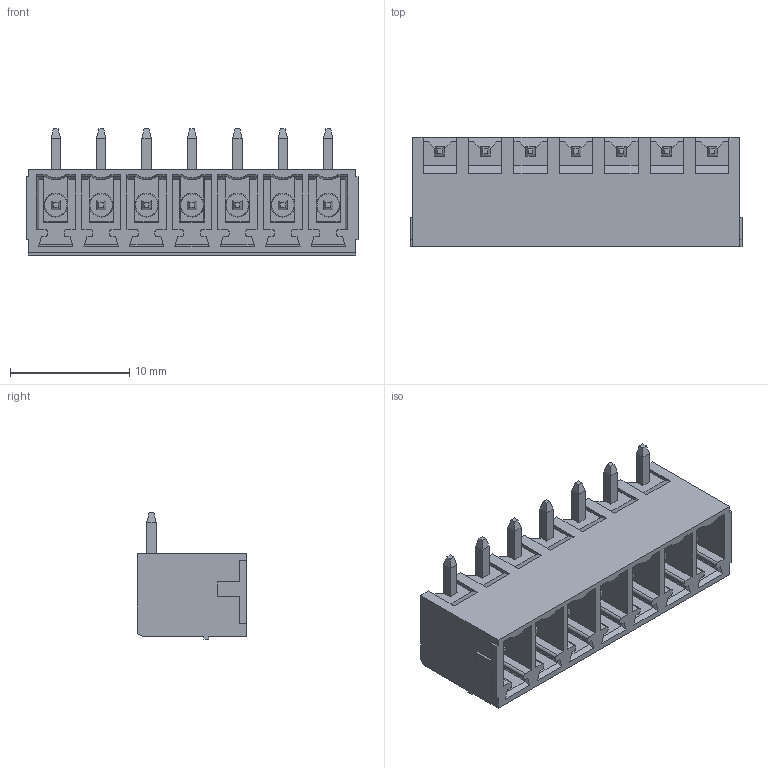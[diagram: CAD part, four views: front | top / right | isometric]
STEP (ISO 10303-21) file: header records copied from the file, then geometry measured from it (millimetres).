
FILE_DESCRIPTION(('FreeCAD Model'),'2;1');
FILE_NAME('Open CASCADE Shape Model','2023-05-24T16:16:33',('Author'),( ''),'Open CASCADE STEP processor 7.6','FreeCAD','Unknown');
FILE_SCHEMA(('AUTOMOTIVE_DESIGN { 1 0 10303 214 1 1 1 1 }'));
Length unit declared in the file: millimetre
Products named in the file (1): BR7MN2-07
Bounding box: 27.86 x 9.2 x 10.6 mm (x, y, z)
Volume: 855.3 mm3; surface area: 2566.7 mm2
Topology: 1 solids, 8 shells, 615 faces, 1580 edges, 995 vertices
Faces by surface type: plane 537, cylinder 43, cone 21, sphere 14
Entity records: 39416 total; most frequent: CARTESIAN_POINT 7483, DIRECTION 5979, LINE 4358, VECTOR 4358, ORIENTED_EDGE 3132, PCURVE 3132, DEFINITIONAL_REPRESENTATION 3132, EDGE_CURVE 1566
